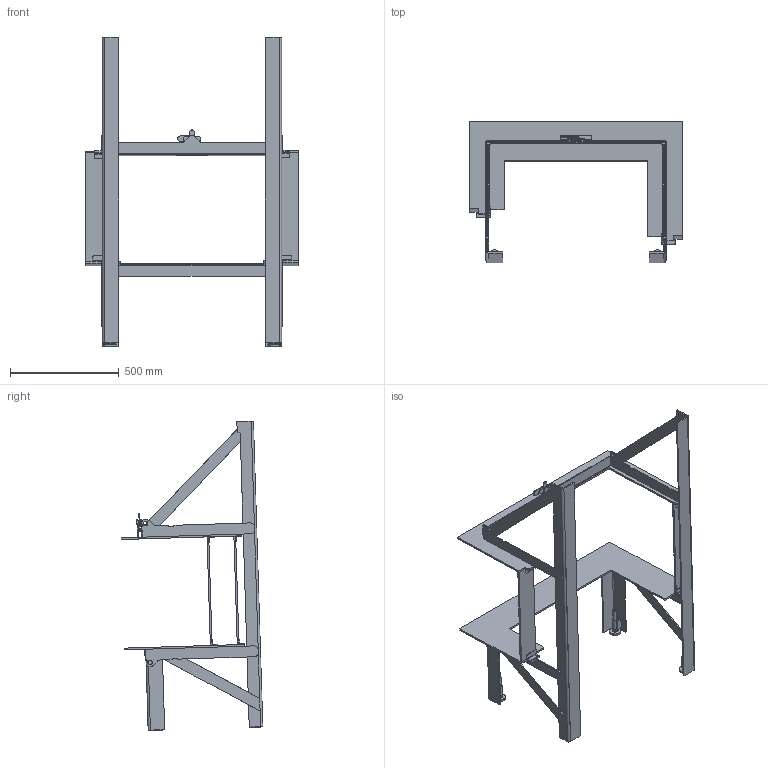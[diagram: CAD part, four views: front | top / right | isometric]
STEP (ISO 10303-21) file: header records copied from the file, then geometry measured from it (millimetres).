
FILE_DESCRIPTION(/* description */ (''),/* implementation_level */ '2;1');
FILE_NAME(/* name */ 'C:\ADSK_DM_WS\CAD_3D\03 Geraete\RAS 50x80x42\Zeichnungen\2023-00968.stp',/* time_stamp */ '2023-04-27T06:58:01+02:00',/* author */ ('CPI'),/* organization */ (''),/* preprocessor_version */ 'ST-DEVELOPER v18.1',/* originating_system */ 'Autodesk Inventor 2022',/* authorisation */ '');
FILE_SCHEMA (('AUTOMOTIVE_DESIGN { 1 0 10303 214 3 1 1 }'));
Length unit declared in the file: millimetre
Products named in the file (1): 2023-01154
Bounding box: 975 x 650.23 x 1420.84 mm (x, y, z)
Volume: 8490417.9 mm3; surface area: 2754648 mm2
Topology: 8 solids, 8 shells, 860 faces, 2353 edges, 1496 vertices
Faces by surface type: plane 467, cylinder 325, cone 68
Full cylindrical faces by diameter (mm): 10 x1, 10.21 x2, 16 x9, 20 x2, 25 x2, 30 x4
Entity records: 28024 total; most frequent: CARTESIAN_POINT 5436, ORIENTED_EDGE 4706, DIRECTION 4622, EDGE_CURVE 2353, AXIS2_PLACEMENT_3D 1578, VERTEX_POINT 1496, LINE 1466, VECTOR 1466
